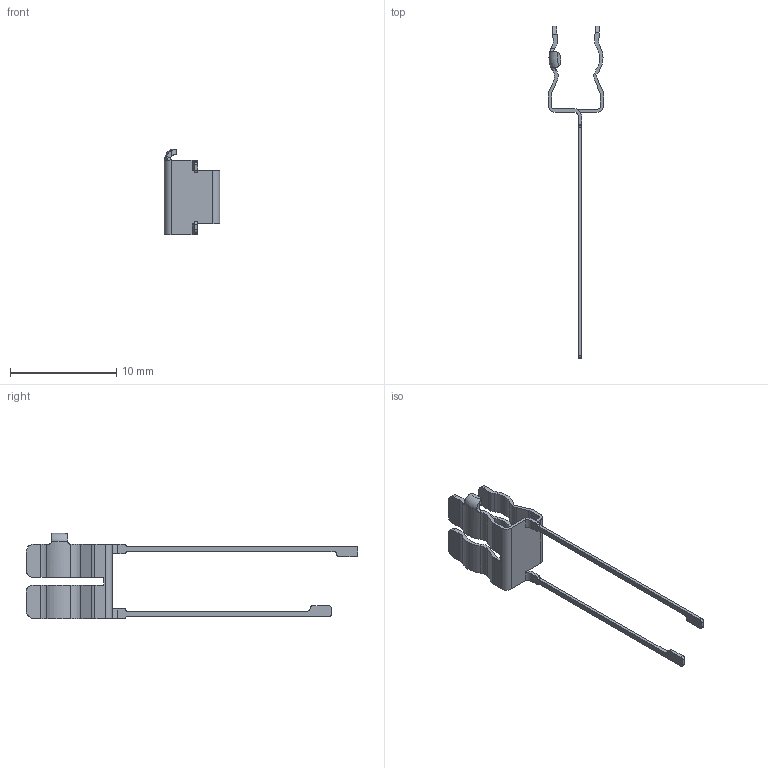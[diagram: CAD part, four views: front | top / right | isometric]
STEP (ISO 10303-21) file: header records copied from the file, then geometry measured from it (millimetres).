
FILE_DESCRIPTION(/* description */ (''),/* implementation_level */ '2;1');
FILE_NAME(/* name */ 'C:\Users\Hani\Desktop\work\CSC-05\CSC-05.stp',/* time_stamp */ '2021-10-29T16:48:40-07:00',/* author */ ('Hani'),/* organization */ (''),/* preprocessor_version */ 'ST-DEVELOPER v17',/* originating_system */ 'Autodesk Inventor 2019',/* authorisation */ '');
FILE_SCHEMA (('AUTOMOTIVE_DESIGN { 1 0 10303 214 3 1 1 }'));
Length unit declared in the file: inch
Products named in the file (1): CSC-05
Bounding box: 5.2 x 31.2 x 8 mm (x, y, z)
Volume: 44.5 mm3; surface area: 339.3 mm2
Topology: 1 solids, 1 shells, 264 faces, 746 edges, 496 vertices
Faces by surface type: plane 127, cylinder 68, bspline 67, torus 2
Entity records: 9272 total; most frequent: CARTESIAN_POINT 2736, ORIENTED_EDGE 1492, DIRECTION 1124, EDGE_CURVE 746, VERTEX_POINT 496, LINE 458, VECTOR 458, AXIS2_PLACEMENT_3D 333
